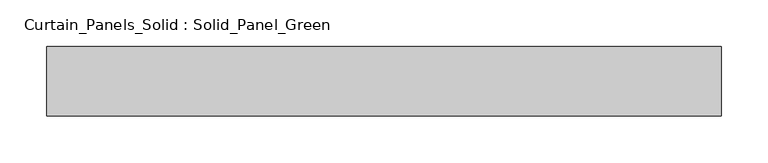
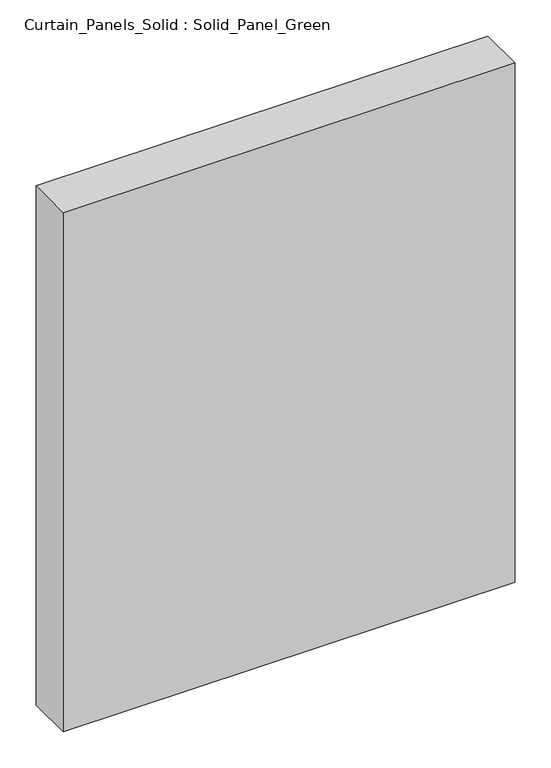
"""IFC4 building model written with IfcOpenShell, lengths in millimetres: plate geometry, Curtain_Panels_Solid : Solid_Panel_Green."""

import ifcopenshell
import ifcopenshell.guid

model = None  # the IFC model being written
_history = None  # IfcOwnerHistory: only IFC2X3 demands one
_inside = {}  # id of a spatial element -> (the spatial element, [elements in it])
_under = {}  # id of a project, library or spatial element -> (it, [spatial elements below it])
_declared = {}  # id of a project -> (the project, [libraries it declares])
_typed = {}  # id of a type object -> (the type object, [elements of that type])
_made_of = {}  # id of a material, layer set ... -> (it, [elements and type objects made of it])


def new_model(schema):
    """Start an empty IFC model of exactly this schema.

    Asked for "IFC4X3", IfcOpenShell would pick the latest addendum, in which some entities
    have other attributes; the version numbers below select the first issue.
    IFC2X3 requires an IfcOwnerHistory on every rooted entity: one is made here for all.
    """
    global model, _history
    if schema == "IFC4X3":
        model = ifcopenshell.file(schema_version=(4, 3, 0, 0))
    else:
        model = ifcopenshell.file(schema=schema)
    _inside.clear()
    _under.clear()
    _declared.clear()
    _typed.clear()
    _made_of.clear()
    _history = None
    if model.schema == "IFC2X3":
        org = make("IfcOrganization", Name="unknown")
        user = make(
            "IfcPersonAndOrganization",
            ThePerson=make("IfcPerson", FamilyName="unknown"),
            TheOrganization=org,
        )
        app = make(
            "IfcApplication",
            ApplicationDeveloper=org,
            Version="unknown",
            ApplicationFullName="unknown",
            ApplicationIdentifier="unknown",
        )
        _history = make(
            "IfcOwnerHistory",
            OwningUser=user,
            OwningApplication=app,
            ChangeAction="ADDED",
            CreationDate=0,
        )
    return model


def make(cls, **values):
    """One entity of the class cls with the attributes given. An attribute that is None is left unset."""
    return model.create_entity(
        cls, **{name: value for name, value in values.items() if value is not None}
    )


def rooted(cls, **values):
    """An entity with a GlobalId (a new one), such as an element, a storey or a relation."""
    return make(cls, GlobalId=ifcopenshell.guid.new(), OwnerHistory=_history, **values)


def si_unit(unit_type, name, prefix=None):
    """IfcSIUnit, for example si_unit("LENGTHUNIT", "METRE", prefix="MILLI")."""
    return make("IfcSIUnit", UnitType=unit_type, Prefix=prefix, Name=name)


def assignment(units):
    """IfcUnitAssignment: the units of a project."""
    return None if units is None else make("IfcUnitAssignment", Units=units)


def point(xyz):
    """IfcCartesianPoint."""
    return None if xyz is None else make("IfcCartesianPoint", Coordinates=xyz)


def direction(xyz):
    """IfcDirection."""
    return None if xyz is None else make("IfcDirection", DirectionRatios=xyz)


def frame(location, z_axis=None, x_axis=None):
    """IfcAxis2Placement3D, a coordinate frame: its origin and axes. An axis left out is left unset."""
    return make(
        "IfcAxis2Placement3D",
        Location=point(location),
        Axis=direction(z_axis),
        RefDirection=direction(x_axis),
    )


def origin():
    """The frame at (0, 0, 0) with its axes left unset."""
    return frame((0.0, 0.0, 0.0))


def origin_with_axes():
    """The frame at (0, 0, 0) with the z axis (0, 0, 1) and the x axis (1, 0, 0) written out."""
    return frame((0.0, 0.0, 0.0), z_axis=(0.0, 0.0, 1.0), x_axis=(1.0, 0.0, 0.0))


def place(relative_to, where):
    """IfcLocalPlacement: puts the frame where relative to a parent placement (None: the world)."""
    return make(
        "IfcLocalPlacement", PlacementRelTo=relative_to, RelativePlacement=where
    )


def context(
    kind, dimensions, precision=None, world=None, true_north=None, identifier=None
):
    """IfcGeometricRepresentationContext, for example the 3D "Model" context."""
    return make(
        "IfcGeometricRepresentationContext",
        ContextIdentifier=identifier,
        ContextType=kind,
        CoordinateSpaceDimension=dimensions,
        Precision=precision,
        WorldCoordinateSystem=world,
        TrueNorth=true_north,
    )


def project(units=None, contexts=None):
    """IfcProject with its units and contexts."""
    return rooted(
        "IfcProject",
        Name="project",
        RepresentationContexts=contexts,
        UnitsInContext=assignment(units),
    )


def spatial(cls, under=None, at=None, **own):
    """A site, building, storey or space (cls), placed at a placement, below another one or the project."""
    s = rooted(cls, ObjectPlacement=at, **own)
    if under is not None:
        _under.setdefault(under.id(), (under, []))[1].append(s)
    return s


def polyline(points):
    """IfcPolyline through the points."""
    return make("IfcPolyline", Points=[point(p) for p in points])


def outline(outer, holes=None, kind="AREA"):
    """IfcArbitraryClosedProfileDef: a profile drawn as a closed curve; with holes, ...WithVoids."""
    if holes is None:
        return make("IfcArbitraryClosedProfileDef", ProfileType=kind, OuterCurve=outer)
    return make(
        "IfcArbitraryProfileDefWithVoids",
        ProfileType=kind,
        OuterCurve=outer,
        InnerCurves=holes,
    )


def extrude(swept, where, along, depth):
    """IfcExtrudedAreaSolid: the profile swept, set in the frame where, extruded along a direction by depth."""
    return make(
        "IfcExtrudedAreaSolid",
        SweptArea=swept,
        Position=where,
        ExtrudedDirection=direction(along),
        Depth=depth,
    )


def shape(context_of_items, identifier, shape_type, items):
    """IfcShapeRepresentation: the items that make up one representation, for example the "Body"."""
    return make(
        "IfcShapeRepresentation",
        ContextOfItems=context_of_items,
        RepresentationIdentifier=identifier,
        RepresentationType=shape_type,
        Items=items,
    )


def source(mapping_origin, context_of_items, identifier, shape_type, items):
    """IfcRepresentationMap: a shape defined once, which mapped items show again and again."""
    return make(
        "IfcRepresentationMap",
        MappingOrigin=mapping_origin,
        MappedRepresentation=shape(context_of_items, identifier, shape_type, items),
    )


def transform(
    local_origin,
    x_axis=None,
    y_axis=None,
    z_axis=None,
    scale=None,
    scale2=None,
    scale3=None,
    uniform=True,
):
    """IfcCartesianTransformationOperator3D, or its non-uniform kind. x_axis, y_axis, z_axis: its Axis1, 2, 3."""
    if uniform:
        return make(
            "IfcCartesianTransformationOperator3D",
            Axis1=direction(x_axis),
            Axis2=direction(y_axis),
            LocalOrigin=point(local_origin),
            Scale=scale,
            Axis3=direction(z_axis),
        )
    return make(
        "IfcCartesianTransformationOperator3DnonUniform",
        Axis1=direction(x_axis),
        Axis2=direction(y_axis),
        LocalOrigin=point(local_origin),
        Scale=scale,
        Axis3=direction(z_axis),
        Scale2=scale2,
        Scale3=scale3,
    )


def mapped(mapping_source, mapping_target):
    """IfcMappedItem: shows the shape of a source again, moved by a transform."""
    return make(
        "IfcMappedItem", MappingSource=mapping_source, MappingTarget=mapping_target
    )


def made_of(thing, what):
    """Note that an element or type object is made of a material, layer set ...; save() writes the relation."""
    if what is not None:
        _made_of.setdefault(what.id(), (what, []))[1].append(thing)
    return thing


def element(
    cls,
    number,
    at=None,
    inside=None,
    cuts=None,
    type_object=None,
    material=None,
    context=None,
    identifier="Body",
    shape_type=None,
    held_by="IfcProductDefinitionShape",
    body=None,
    shapes=None,
    **own,
):
    """One element of the class cls, such as IfcWall. Its Tag is "e" and its number.

    at: its placement. inside: the storey or other place that contains it. cuts: it is an
    opening in that element (IfcRelVoidsElement). A single representation is given by context,
    identifier, shape_type and body (its items); several are given by shapes. held_by: the class
    of the entity that holds the representations. save() writes the other relations.
    """
    e = rooted(cls, Tag="e%d" % number, ObjectPlacement=at, **own)
    if body is not None:
        shapes = [shape(context, identifier, shape_type, body)]
    if shapes is not None:
        e.Representation = make(held_by, Representations=shapes)
    if inside is not None:
        _inside.setdefault(inside.id(), (inside, []))[1].append(e)
    if cuts is not None:
        rooted(
            "IfcRelVoidsElement", RelatingBuildingElement=cuts, RelatedOpeningElement=e
        )
    if type_object is not None:
        _typed.setdefault(type_object.id(), (type_object, []))[1].append(e)
    return made_of(e, material)


def aggregate(whole, parts):
    """IfcRelAggregates: a whole, such as a stair, and the parts it consists of."""
    return rooted("IfcRelAggregates", RelatingObject=whole, RelatedObjects=parts)


def save(model, path):
    """Write the relations noted so far, then the file.

    IfcRelAggregates (storeys below a building ...), IfcRelContainedInSpatialStructure (elements
    in a storey), IfcRelDefinesByType, IfcRelAssociatesMaterial and IfcRelDeclares: one each for
    every whole, place, type object, material and project.
    """
    for whole, parts in _under.values():
        aggregate(whole, parts)
    for where, things in _inside.values():
        rooted(
            "IfcRelContainedInSpatialStructure",
            RelatedElements=things,
            RelatingStructure=where,
        )
    for kind, things in _typed.values():
        rooted("IfcRelDefinesByType", RelatedObjects=things, RelatingType=kind)
    for what, things in _made_of.values():
        rooted("IfcRelAssociatesMaterial", RelatedObjects=things, RelatingMaterial=what)
    for by, libraries in _declared.values():
        rooted("IfcRelDeclares", RelatingContext=by, RelatedDefinitions=libraries)
    model.write(path)


def curtain_panels_solid_solid_panel_green_c27fb083(model_context):
    return source(origin(), model_context, "Body", "SweptSolid", [
        extrude(outline(polyline([(362.5, 25.0), (362.5, -50.0), (-362.5, -50.0), (-362.5, 25.0), (362.5, 25.0)])), origin_with_axes(), (0.0, 0.0, 1.0), 880.0),
    ])


if __name__ == "__main__":
    model = new_model("IFC4")
    model_context = context("Model", 3, world=origin())
    ifc_project = project(units=[si_unit("LENGTHUNIT", "METRE", prefix="MILLI")], contexts=[model_context])
    site = spatial("IfcSite", under=ifc_project)
    building = spatial("IfcBuilding", under=site)
    placement = place(None, origin())
    curtain_panels_solid_solid_panel_green_shape = curtain_panels_solid_solid_panel_green_c27fb083(model_context)
    element("IfcPlate", 1, ObjectType="Curtain_Panels_Solid : Solid_Panel_Green", at=placement, inside=building, context=model_context, shape_type="MappedRepresentation", body=[
        mapped(curtain_panels_solid_solid_panel_green_shape, transform((0.0, 0.0, 0.0), x_axis=(1.0, 0.0, 0.0), y_axis=(0.0, 1.0, 0.0), z_axis=(0.0, 0.0, 1.0))),
    ])
    save(model, "model.ifc")
